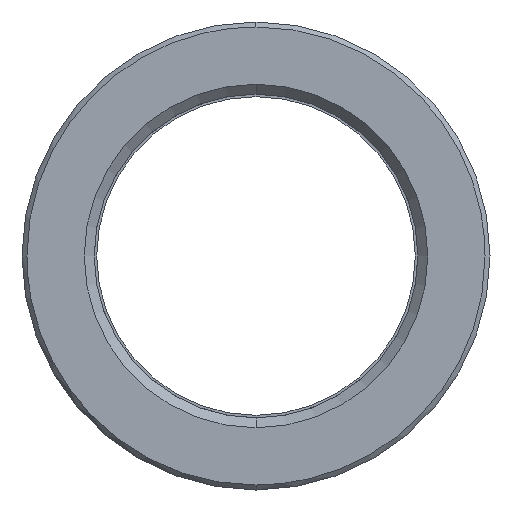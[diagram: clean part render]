
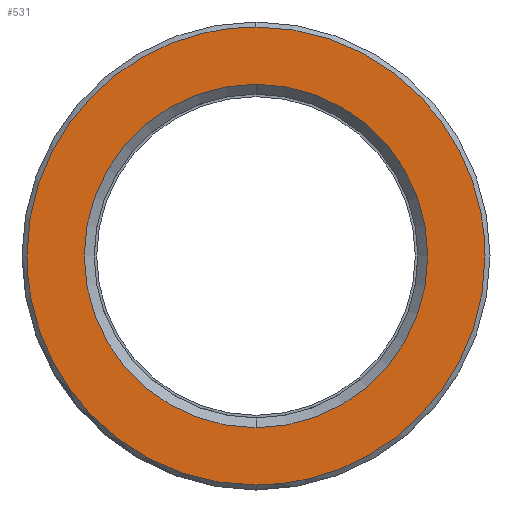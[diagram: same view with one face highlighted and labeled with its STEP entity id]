
A CAD part, left-side view. The second image highlights one B-rep face of the part: STEP entity #531.
In plain terms, the highlighted planar face has unit normal (-1, 0, 0).
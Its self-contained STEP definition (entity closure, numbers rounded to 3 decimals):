
#311=CARTESIAN_POINT('Axis2P3D Location',(0.,0.,0.)) ;
#315=CARTESIAN_POINT('Vertex',(0.,17.25,0.)) ;
#317=CARTESIAN_POINT('Vertex',(0.,0.,17.25)) ;
#320=CARTESIAN_POINT('Axis2P3D Location',(0.,0.,0.)) ;
#324=CARTESIAN_POINT('Vertex',(0.,0.,-17.25)) ;
#351=CARTESIAN_POINT('Axis2P3D Location',(0.,0.,0.)) ;
#355=CARTESIAN_POINT('Vertex',(0.,-17.25,0.)) ;
#358=CARTESIAN_POINT('Axis2P3D Location',(0.,0.,0.)) ;
#438=CARTESIAN_POINT('Axis2P3D Location',(0.,23.,0.)) ;
#444=CARTESIAN_POINT('Control Point',(0.,0.,-23.)) ;
#445=CARTESIAN_POINT('Control Point',(0.,1.232,-23.)) ;
#446=CARTESIAN_POINT('Control Point',(0.,2.465,-22.917)) ;
#447=CARTESIAN_POINT('Control Point',(0.,3.69,-22.752)) ;
#448=CARTESIAN_POINT('Control Point',(0.,6.977,-22.083)) ;
#449=CARTESIAN_POINT('Control Point',(0.,10.102,-20.826)) ;
#450=CARTESIAN_POINT('Control Point',(0.,11.977,-19.807)) ;
#451=CARTESIAN_POINT('Control Point',(0.,15.458,-17.357)) ;
#452=CARTESIAN_POINT('Control Point',(0.,18.293,-14.182)) ;
#453=CARTESIAN_POINT('Control Point',(0.,19.521,-12.437)) ;
#454=CARTESIAN_POINT('Control Point',(0.,21.386,-9.007)) ;
#455=CARTESIAN_POINT('Control Point',(0.,22.493,-5.271)) ;
#456=CARTESIAN_POINT('Control Point',(0.,22.831,-3.528)) ;
#457=CARTESIAN_POINT('Control Point',(0.,23.,-1.764)) ;
#458=CARTESIAN_POINT('Control Point',(0.,23.,0.)) ;
#459=CARTESIAN_POINT('Vertex',(0.,0.,-23.)) ;
#461=CARTESIAN_POINT('Vertex',(0.,23.,0.)) ;
#465=CARTESIAN_POINT('Control Point',(0.,-23.,0.)) ;
#466=CARTESIAN_POINT('Control Point',(0.,-23.,-2.115)) ;
#467=CARTESIAN_POINT('Control Point',(0.,-22.757,-4.229)) ;
#468=CARTESIAN_POINT('Control Point',(0.,-22.271,-6.306)) ;
#469=CARTESIAN_POINT('Control Point',(0.,-20.83,-10.312)) ;
#470=CARTESIAN_POINT('Control Point',(0.,-18.518,-13.886)) ;
#471=CARTESIAN_POINT('Control Point',(0.,-17.161,-15.532)) ;
#472=CARTESIAN_POINT('Control Point',(0.,-14.093,-18.483)) ;
#473=CARTESIAN_POINT('Control Point',(0.,-10.435,-20.661)) ;
#474=CARTESIAN_POINT('Control Point',(0.,-8.489,-21.534)) ;
#475=CARTESIAN_POINT('Control Point',(0.,-5.613,-22.443)) ;
#476=CARTESIAN_POINT('Control Point',(0.,-2.644,-22.873)) ;
#477=CARTESIAN_POINT('Control Point',(0.,-1.764,-22.958)) ;
#478=CARTESIAN_POINT('Control Point',(0.,-0.882,-23.)) ;
#479=CARTESIAN_POINT('Control Point',(0.,0.,-23.)) ;
#480=CARTESIAN_POINT('Vertex',(0.,-23.,0.)) ;
#484=CARTESIAN_POINT('Control Point',(0.,0.,23.)) ;
#485=CARTESIAN_POINT('Control Point',(0.,-1.232,23.)) ;
#486=CARTESIAN_POINT('Control Point',(0.,-2.465,22.917)) ;
#487=CARTESIAN_POINT('Control Point',(0.,-3.69,22.752)) ;
#488=CARTESIAN_POINT('Control Point',(0.,-6.977,22.083)) ;
#489=CARTESIAN_POINT('Control Point',(0.,-10.102,20.826)) ;
#490=CARTESIAN_POINT('Control Point',(0.,-11.977,19.807)) ;
#491=CARTESIAN_POINT('Control Point',(0.,-15.458,17.357)) ;
#492=CARTESIAN_POINT('Control Point',(0.,-18.293,14.182)) ;
#493=CARTESIAN_POINT('Control Point',(0.,-19.521,12.437)) ;
#494=CARTESIAN_POINT('Control Point',(0.,-21.386,9.007)) ;
#495=CARTESIAN_POINT('Control Point',(0.,-22.493,5.271)) ;
#496=CARTESIAN_POINT('Control Point',(0.,-22.831,3.528)) ;
#497=CARTESIAN_POINT('Control Point',(0.,-23.,1.764)) ;
#498=CARTESIAN_POINT('Control Point',(0.,-23.,0.)) ;
#499=CARTESIAN_POINT('Vertex',(0.,0.,23.)) ;
#503=CARTESIAN_POINT('Control Point',(0.,23.,0.)) ;
#504=CARTESIAN_POINT('Control Point',(0.,23.,2.115)) ;
#505=CARTESIAN_POINT('Control Point',(0.,22.757,4.229)) ;
#506=CARTESIAN_POINT('Control Point',(0.,22.271,6.306)) ;
#507=CARTESIAN_POINT('Control Point',(0.,20.83,10.312)) ;
#508=CARTESIAN_POINT('Control Point',(0.,18.518,13.886)) ;
#509=CARTESIAN_POINT('Control Point',(0.,17.161,15.532)) ;
#510=CARTESIAN_POINT('Control Point',(0.,14.093,18.483)) ;
#511=CARTESIAN_POINT('Control Point',(0.,10.435,20.661)) ;
#512=CARTESIAN_POINT('Control Point',(0.,8.489,21.534)) ;
#513=CARTESIAN_POINT('Control Point',(0.,5.613,22.443)) ;
#514=CARTESIAN_POINT('Control Point',(0.,2.644,22.873)) ;
#515=CARTESIAN_POINT('Control Point',(0.,1.764,22.958)) ;
#516=CARTESIAN_POINT('Control Point',(0.,0.882,23.)) ;
#517=CARTESIAN_POINT('Control Point',(0.,0.,23.)) ;
#312=DIRECTION('Axis2P3D Direction',(-1.,0.,0.)) ;
#321=DIRECTION('Axis2P3D Direction',(-1.,0.,0.)) ;
#352=DIRECTION('Axis2P3D Direction',(-1.,0.,0.)) ;
#359=DIRECTION('Axis2P3D Direction',(-1.,0.,0.)) ;
#439=DIRECTION('Axis2P3D Direction',(-1.,0.,0.)) ;
#440=DIRECTION('Axis2P3D XDirection',(0.,0.,1.)) ;
#313=AXIS2_PLACEMENT_3D('Circle Axis2P3D',#311,#312,$) ;
#322=AXIS2_PLACEMENT_3D('Circle Axis2P3D',#320,#321,$) ;
#353=AXIS2_PLACEMENT_3D('Circle Axis2P3D',#351,#352,$) ;
#360=AXIS2_PLACEMENT_3D('Circle Axis2P3D',#358,#359,$) ;
#441=AXIS2_PLACEMENT_3D('Plane Axis2P3D',#438,#439,#440) ;
#520=ORIENTED_EDGE('',*,*,#463,.F.) ;
#521=ORIENTED_EDGE('',*,*,#482,.F.) ;
#522=ORIENTED_EDGE('',*,*,#501,.F.) ;
#523=ORIENTED_EDGE('',*,*,#518,.F.) ;
#526=ORIENTED_EDGE('',*,*,#319,.T.) ;
#527=ORIENTED_EDGE('',*,*,#362,.T.) ;
#528=ORIENTED_EDGE('',*,*,#357,.T.) ;
#529=ORIENTED_EDGE('',*,*,#326,.T.) ;
#530=FACE_BOUND('',#525,.T.) ;
#531=ADVANCED_FACE('553-32X136',(#524,#530),#442,.T.) ;
#443=B_SPLINE_CURVE_WITH_KNOTS('',5,(#444,#445,#446,#447,#448,#449,#450,#451,#452,#453,#454,#455,#456,#457,#458),.UNSPECIFIED.,.F.,.U.,(6,3,3,3,6),(51.093,59.807,74.759,89.711,102.186),.UNSPECIFIED.) ;
#464=B_SPLINE_CURVE_WITH_KNOTS('',5,(#465,#466,#467,#468,#469,#470,#471,#472,#473,#474,#475,#476,#477,#478,#479),.UNSPECIFIED.,.F.,.U.,(6,3,3,3,6),(0.,14.952,29.904,44.855,51.093),.UNSPECIFIED.) ;
#483=B_SPLINE_CURVE_WITH_KNOTS('',5,(#484,#485,#486,#487,#488,#489,#490,#491,#492,#493,#494,#495,#496,#497,#498),.UNSPECIFIED.,.F.,.U.,(6,3,3,3,6),(51.093,59.807,74.759,89.711,102.186),.UNSPECIFIED.) ;
#502=B_SPLINE_CURVE_WITH_KNOTS('',5,(#503,#504,#505,#506,#507,#508,#509,#510,#511,#512,#513,#514,#515,#516,#517),.UNSPECIFIED.,.F.,.U.,(6,3,3,3,6),(0.,14.952,29.904,44.855,51.093),.UNSPECIFIED.) ;
#314=CIRCLE('generated circle',#313,17.25) ;
#323=CIRCLE('generated circle',#322,17.25) ;
#354=CIRCLE('generated circle',#353,17.25) ;
#361=CIRCLE('generated circle',#360,17.25) ;
#319=EDGE_CURVE('',#316,#318,#314,.F.) ;
#326=EDGE_CURVE('',#325,#316,#323,.F.) ;
#357=EDGE_CURVE('',#356,#325,#354,.F.) ;
#362=EDGE_CURVE('',#318,#356,#361,.F.) ;
#463=EDGE_CURVE('',#460,#462,#443,.T.) ;
#482=EDGE_CURVE('',#481,#460,#464,.T.) ;
#501=EDGE_CURVE('',#500,#481,#483,.T.) ;
#518=EDGE_CURVE('',#462,#500,#502,.T.) ;
#519=EDGE_LOOP('',(#520,#521,#522,#523)) ;
#525=EDGE_LOOP('',(#526,#527,#528,#529)) ;
#524=FACE_OUTER_BOUND('',#519,.T.) ;
#442=PLANE('Plane',#441) ;
#316=VERTEX_POINT('',#315) ;
#318=VERTEX_POINT('',#317) ;
#325=VERTEX_POINT('',#324) ;
#356=VERTEX_POINT('',#355) ;
#460=VERTEX_POINT('',#459) ;
#462=VERTEX_POINT('',#461) ;
#481=VERTEX_POINT('',#480) ;
#500=VERTEX_POINT('',#499) ;
